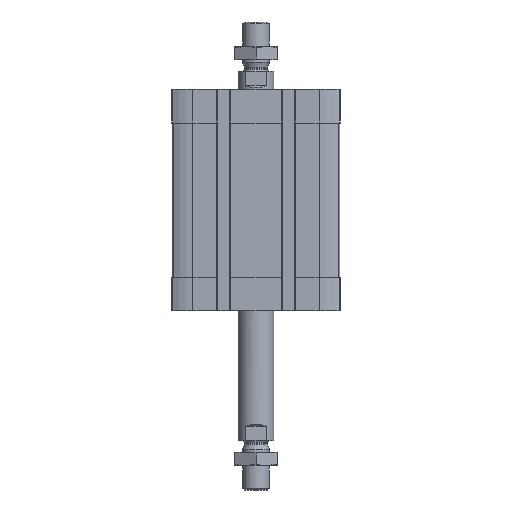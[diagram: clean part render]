
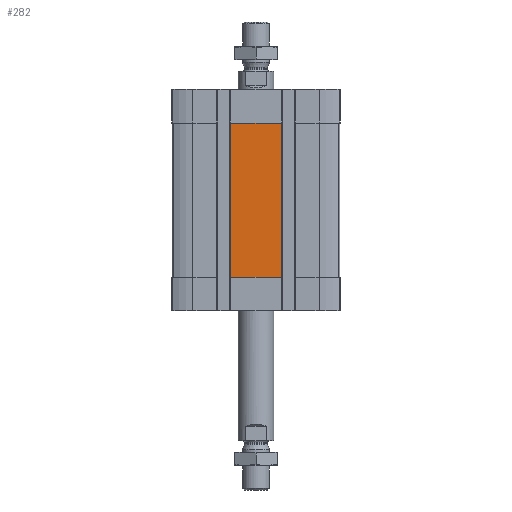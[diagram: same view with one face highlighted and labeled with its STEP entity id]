
A CAD part, front view. The second image highlights one B-rep face of the part: STEP entity #282.
In plain terms, the highlighted planar face has unit normal (0, -1, 0).
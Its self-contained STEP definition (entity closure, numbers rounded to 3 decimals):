
#58 = VECTOR ( 'NONE', #3084, 1000. ) ;
#282 = ADVANCED_FACE ( 'NONE', ( #12273 ), #16374, .T. ) ;
#319 = VECTOR ( 'NONE', #10128, 1000. ) ;
#341 = CARTESIAN_POINT ( 'NONE',  ( -11.4, -37.5, -84. ) ) ;
#967 = VERTEX_POINT ( 'NONE', #4287 ) ;
#1217 = EDGE_CURVE ( 'NONE', #15364, #2425, #15704, .T. ) ;
#2425 = VERTEX_POINT ( 'NONE', #8953 ) ;
#2806 = LINE ( 'NONE', #6565, #3948 ) ;
#3069 = EDGE_CURVE ( 'NONE', #967, #15364, #16915, .T. ) ;
#3084 = DIRECTION ( 'NONE',  ( 1., 0., 0. ) ) ;
#3746 = EDGE_LOOP ( 'NONE', ( #13036, #7454, #12850, #5793 ) ) ;
#3948 = VECTOR ( 'NONE', #5253, 1000. ) ;
#4287 = CARTESIAN_POINT ( 'NONE',  ( -11.4, -37.5, -84. ) ) ;
#4389 = CARTESIAN_POINT ( 'NONE',  ( 11.4, -37.5, -84. ) ) ;
#4808 = CARTESIAN_POINT ( 'NONE',  ( -11.4, -37.5, -84. ) ) ;
#5253 = DIRECTION ( 'NONE',  ( 0., 0., 1. ) ) ;
#5531 = CARTESIAN_POINT ( 'NONE',  ( -11.4, -37.5, -84. ) ) ;
#5741 = DIRECTION ( 'NONE',  ( 0., 0., -1. ) ) ;
#5793 = ORIENTED_EDGE ( 'NONE', *, *, #15010, .T. ) ;
#6106 = EDGE_CURVE ( 'NONE', #967, #11995, #15036, .T. ) ;
#6565 = CARTESIAN_POINT ( 'NONE',  ( 11.4, -37.5, -84. ) ) ;
#7454 = ORIENTED_EDGE ( 'NONE', *, *, #3069, .F. ) ;
#8953 = CARTESIAN_POINT ( 'NONE',  ( 11.4, -37.5, -15. ) ) ;
#10128 = DIRECTION ( 'NONE',  ( 0., 0., 1. ) ) ;
#10469 = CARTESIAN_POINT ( 'NONE',  ( -11.4, -37.5, -15. ) ) ;
#10965 = DIRECTION ( 'NONE',  ( 0., -1., 0. ) ) ;
#11995 = VERTEX_POINT ( 'NONE', #4389 ) ;
#12273 = FACE_OUTER_BOUND ( 'NONE', #3746, .T. ) ;
#12850 = ORIENTED_EDGE ( 'NONE', *, *, #6106, .T. ) ;
#13036 = ORIENTED_EDGE ( 'NONE', *, *, #1217, .F. ) ;
#13587 = VECTOR ( 'NONE', #14581, 1000. ) ;
#14581 = DIRECTION ( 'NONE',  ( 1., 0., 0. ) ) ;
#14728 = CARTESIAN_POINT ( 'NONE',  ( -11.4, -37.5, -15. ) ) ;
#15010 = EDGE_CURVE ( 'NONE', #11995, #2425, #2806, .T. ) ;
#15036 = LINE ( 'NONE', #5531, #58 ) ;
#15364 = VERTEX_POINT ( 'NONE', #14728 ) ;
#15704 = LINE ( 'NONE', #10469, #13587 ) ;
#16042 = AXIS2_PLACEMENT_3D ( 'NONE', #341, #10965, #5741 ) ;
#16374 = PLANE ( 'NONE',  #16042 ) ;
#16915 = LINE ( 'NONE', #4808, #319 ) ;
